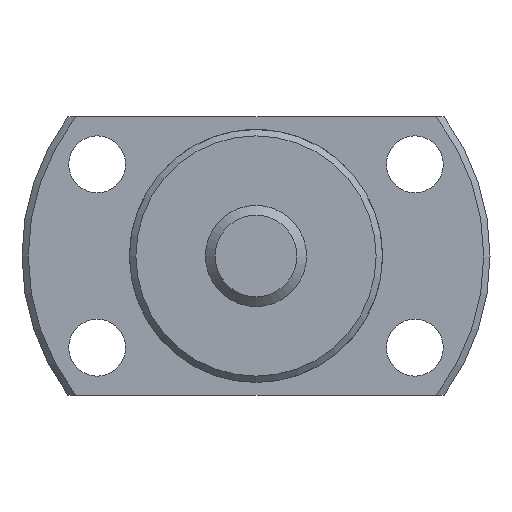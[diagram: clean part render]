
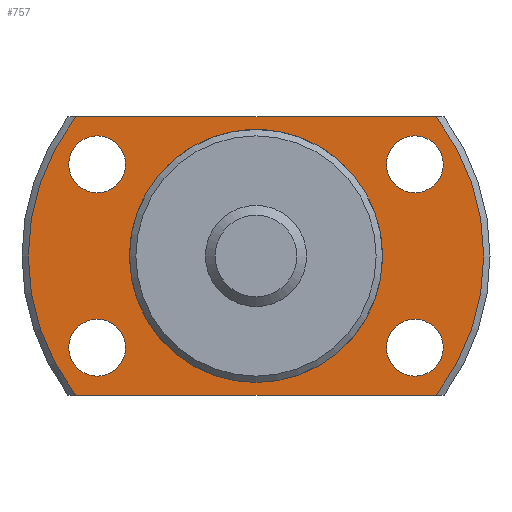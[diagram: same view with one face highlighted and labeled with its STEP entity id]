
A CAD part, left-side view. The second image highlights one B-rep face of the part: STEP entity #757.
In plain terms, the highlighted planar face has unit normal (-1, 0, 0).
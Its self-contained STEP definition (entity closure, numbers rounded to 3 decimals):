
#32=LINE('',#1321,#64);
#33=LINE('',#1325,#65);
#64=VECTOR('',#1038,1000.);
#65=VECTOR('',#1041,1000.);
#203=ORIENTED_EDGE('',*,*,#385,.T.);
#204=ORIENTED_EDGE('',*,*,#386,.T.);
#205=ORIENTED_EDGE('',*,*,#387,.T.);
#206=ORIENTED_EDGE('',*,*,#388,.T.);
#207=ORIENTED_EDGE('',*,*,#374,.F.);
#208=ORIENTED_EDGE('',*,*,#389,.F.);
#209=ORIENTED_EDGE('',*,*,#390,.F.);
#210=ORIENTED_EDGE('',*,*,#391,.F.);
#211=ORIENTED_EDGE('',*,*,#368,.T.);
#368=EDGE_CURVE('',#463,#463,#522,.T.);
#374=EDGE_CURVE('',#468,#469,#525,.T.);
#385=EDGE_CURVE('',#478,#478,#531,.T.);
#386=EDGE_CURVE('',#479,#479,#532,.T.);
#387=EDGE_CURVE('',#480,#480,#533,.T.);
#388=EDGE_CURVE('',#481,#481,#534,.T.);
#389=EDGE_CURVE('',#482,#468,#32,.T.);
#390=EDGE_CURVE('',#483,#482,#535,.T.);
#391=EDGE_CURVE('',#469,#483,#33,.T.);
#463=VERTEX_POINT('',#1264);
#468=VERTEX_POINT('',#1278);
#469=VERTEX_POINT('',#1280);
#478=VERTEX_POINT('',#1314);
#479=VERTEX_POINT('',#1316);
#480=VERTEX_POINT('',#1318);
#481=VERTEX_POINT('',#1320);
#482=VERTEX_POINT('',#1322);
#483=VERTEX_POINT('',#1324);
#522=CIRCLE('',#849,9.85);
#525=CIRCLE('',#853,18.);
#531=CIRCLE('',#864,2.25);
#532=CIRCLE('',#865,2.25);
#533=CIRCLE('',#866,2.25);
#534=CIRCLE('',#867,2.25);
#535=CIRCLE('',#868,18.);
#581=EDGE_LOOP('',(#203));
#582=EDGE_LOOP('',(#204));
#583=EDGE_LOOP('',(#205));
#584=EDGE_LOOP('',(#206));
#585=EDGE_LOOP('',(#207,#208,#209,#210));
#586=EDGE_LOOP('',(#211));
#663=FACE_BOUND('',#581,.T.);
#664=FACE_BOUND('',#582,.T.);
#665=FACE_BOUND('',#583,.T.);
#666=FACE_BOUND('',#584,.T.);
#667=FACE_BOUND('',#585,.T.);
#668=FACE_BOUND('',#586,.T.);
#720=PLANE('',#863);
#757=ADVANCED_FACE('',(#663,#664,#665,#666,#667,#668),#720,.F.);
#849=AXIS2_PLACEMENT_3D('',#1263,#996,#997);
#853=AXIS2_PLACEMENT_3D('',#1279,#1006,#1007);
#863=AXIS2_PLACEMENT_3D('',#1312,#1028,#1029);
#864=AXIS2_PLACEMENT_3D('',#1313,#1030,#1031);
#865=AXIS2_PLACEMENT_3D('',#1315,#1032,#1033);
#866=AXIS2_PLACEMENT_3D('',#1317,#1034,#1035);
#867=AXIS2_PLACEMENT_3D('',#1319,#1036,#1037);
#868=AXIS2_PLACEMENT_3D('',#1323,#1039,#1040);
#996=DIRECTION('',(1.,0.,0.));
#997=DIRECTION('',(0.,0.,-1.));
#1006=DIRECTION('',(1.,0.,0.));
#1007=DIRECTION('',(0.,0.,-1.));
#1028=DIRECTION('',(1.,0.,0.));
#1029=DIRECTION('',(0.,0.,-1.));
#1030=DIRECTION('',(1.,0.,0.));
#1031=DIRECTION('',(0.,0.,-1.));
#1032=DIRECTION('',(1.,0.,0.));
#1033=DIRECTION('',(0.,0.,-1.));
#1034=DIRECTION('',(1.,0.,0.));
#1035=DIRECTION('',(0.,0.,-1.));
#1036=DIRECTION('',(1.,0.,0.));
#1037=DIRECTION('',(0.,0.,-1.));
#1038=DIRECTION('',(0.,1.,0.));
#1039=DIRECTION('',(1.,0.,0.));
#1040=DIRECTION('',(0.,0.,-1.));
#1041=DIRECTION('',(0.,-1.,0.));
#1263=CARTESIAN_POINT('',(19.,0.,0.));
#1264=CARTESIAN_POINT('',(19.,0.,-9.85));
#1278=CARTESIAN_POINT('',(19.,14.248,-11.));
#1279=CARTESIAN_POINT('',(19.,0.,0.));
#1280=CARTESIAN_POINT('',(19.,14.248,11.));
#1312=CARTESIAN_POINT('',(19.,9.85,0.));
#1313=CARTESIAN_POINT('',(19.,-12.557,-7.25));
#1314=CARTESIAN_POINT('',(19.,-12.557,-9.5));
#1315=CARTESIAN_POINT('',(19.,-12.557,7.25));
#1316=CARTESIAN_POINT('',(19.,-12.557,5.));
#1317=CARTESIAN_POINT('',(19.,12.557,-7.25));
#1318=CARTESIAN_POINT('',(19.,12.557,-9.5));
#1319=CARTESIAN_POINT('',(19.,12.557,7.25));
#1320=CARTESIAN_POINT('',(19.,12.557,5.));
#1321=CARTESIAN_POINT('',(19.,-23.5,-11.));
#1322=CARTESIAN_POINT('',(19.,-14.248,-11.));
#1323=CARTESIAN_POINT('',(19.,0.,0.));
#1324=CARTESIAN_POINT('',(19.,-14.248,11.));
#1325=CARTESIAN_POINT('',(19.,23.5,11.));
